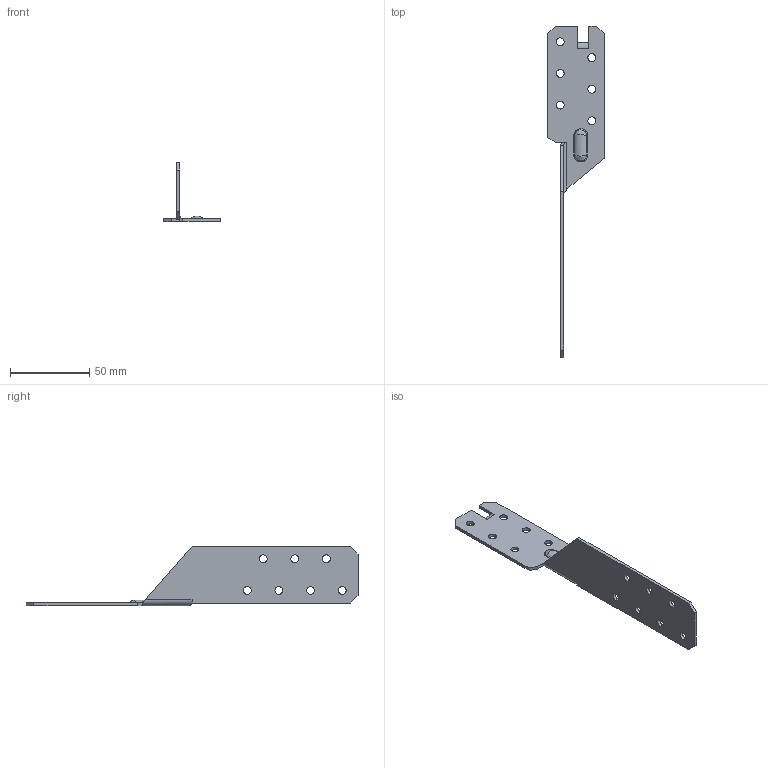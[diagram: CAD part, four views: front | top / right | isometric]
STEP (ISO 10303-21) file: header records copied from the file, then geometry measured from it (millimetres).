
FILE_DESCRIPTION (( 'STEP AP203' ), '1' );
FILE_NAME ('100502RL.STEP', '2020-02-17T09:31:05', ( '' ), ( '' ), 'SwSTEP 2.0', 'SolidWorks 2013', '' );
FILE_SCHEMA (( 'CONFIG_CONTROL_DESIGN' ));
Length unit declared in the file: millimetre
Products named in the file (1): 100502RL
Bounding box: 36 x 210 x 37.74 mm (x, y, z)
Volume: 14306.5 mm3; surface area: 15863.4 mm2
Topology: 1 solids, 1 shells, 75 faces, 197 edges, 126 vertices
Faces by surface type: cylinder 35, plane 30, bspline 10
Entity records: 3087 total; most frequent: CARTESIAN_POINT 1116, ORIENTED_EDGE 394, DIRECTION 379, EDGE_CURVE 197, AXIS2_PLACEMENT_3D 132, VERTEX_POINT 126, VECTOR 115, LINE 115
